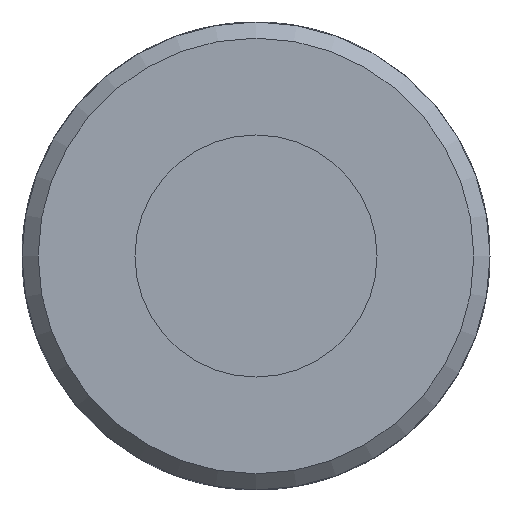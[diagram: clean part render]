
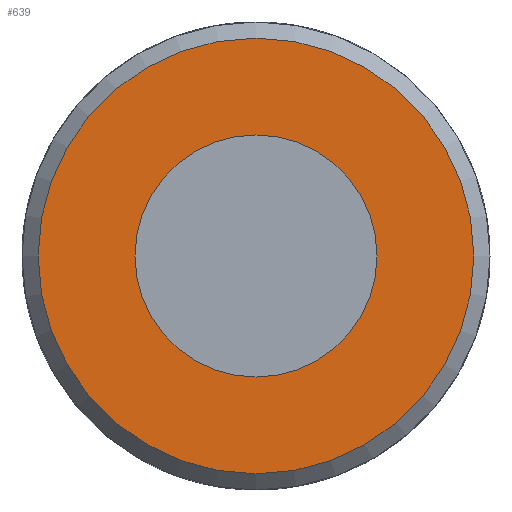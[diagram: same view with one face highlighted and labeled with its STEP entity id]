
A CAD part, front view. The second image highlights one B-rep face of the part: STEP entity #639.
In plain terms, the highlighted planar face has unit normal (0, -1, 0).
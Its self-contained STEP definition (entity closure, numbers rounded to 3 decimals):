
#123=PLANE('',#698);
#149=FACE_BOUND('',#233,.T.);
#176=FACE_OUTER_BOUND('',#232,.T.);
#232=EDGE_LOOP('',(#506));
#233=EDGE_LOOP('',(#507));
#277=CIRCLE('',#693,15.);
#279=CIRCLE('',#696,27.);
#316=VERTEX_POINT('',#986);
#318=VERTEX_POINT('',#991);
#384=EDGE_CURVE('',#316,#316,#277,.T.);
#386=EDGE_CURVE('',#318,#318,#279,.T.);
#506=ORIENTED_EDGE('',*,*,#386,.F.);
#507=ORIENTED_EDGE('',*,*,#384,.T.);
#639=ADVANCED_FACE('',(#176,#149),#123,.F.);
#693=AXIS2_PLACEMENT_3D('',#987,#811,#812);
#696=AXIS2_PLACEMENT_3D('',#992,#817,#818);
#698=AXIS2_PLACEMENT_3D('',#1200,#825,#826);
#811=DIRECTION('center_axis',(0.,1.,0.));
#812=DIRECTION('ref_axis',(-1.,0.,0.));
#817=DIRECTION('center_axis',(0.,1.,0.));
#818=DIRECTION('ref_axis',(1.,0.,0.));
#825=DIRECTION('center_axis',(0.,1.,0.));
#826=DIRECTION('ref_axis',(0.,0.,1.));
#986=CARTESIAN_POINT('',(15.,-75.5,0.));
#987=CARTESIAN_POINT('Origin',(0.,-75.5,0.));
#991=CARTESIAN_POINT('',(-27.,-75.5,0.));
#992=CARTESIAN_POINT('Origin',(0.,-75.5,0.));
#1200=CARTESIAN_POINT('Origin',(0.,-75.5,0.));
